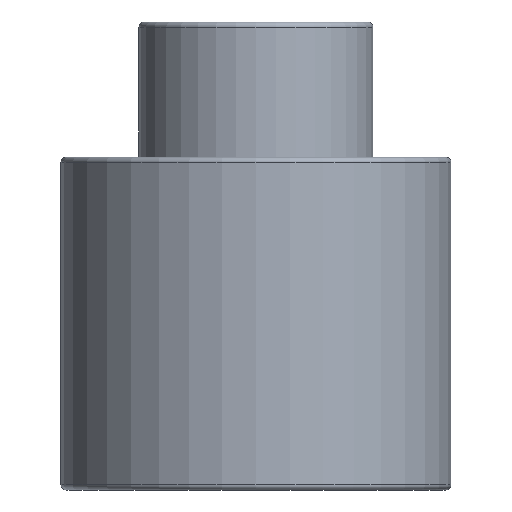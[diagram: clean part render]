
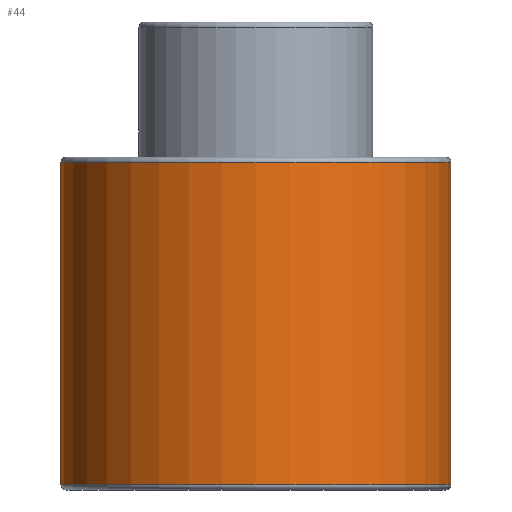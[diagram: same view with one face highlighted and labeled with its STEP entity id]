
A CAD part, front view. The second image highlights one B-rep face of the part: STEP entity #44.
In plain terms, the highlighted cylindrical face has radius 37.5 mm (diameter 75 mm), a full revolution.
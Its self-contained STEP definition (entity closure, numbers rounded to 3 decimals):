
#44=ADVANCED_FACE('',(#60,#61),#56,.T.);
#56=CYLINDRICAL_SURFACE('',#166,37.5);
#60=FACE_BOUND('',#84,.T.);
#61=FACE_BOUND('',#85,.T.);
#84=EDGE_LOOP('',(#106));
#85=EDGE_LOOP('',(#107));
#106=ORIENTED_EDGE('',*,*,#141,.F.);
#107=ORIENTED_EDGE('',*,*,#142,.T.);
#128=VERTEX_POINT('',#237);
#129=VERTEX_POINT('',#239);
#141=EDGE_CURVE('',#128,#128,#152,.T.);
#142=EDGE_CURVE('',#129,#129,#153,.T.);
#152=CIRCLE('',#164,37.5);
#153=CIRCLE('',#165,37.5);
#164=AXIS2_PLACEMENT_3D('',#236,#189,#190);
#165=AXIS2_PLACEMENT_3D('',#238,#191,#192);
#166=AXIS2_PLACEMENT_3D('',#240,#193,#194);
#189=DIRECTION('',(0.,0.,-1.));
#190=DIRECTION('',(-1.,0.,0.));
#191=DIRECTION('',(0.,0.,-1.));
#192=DIRECTION('',(-1.,0.,0.));
#193=DIRECTION('',(0.,0.,-1.));
#194=DIRECTION('',(-1.,0.,0.));
#236=CARTESIAN_POINT('',(0.,0.,1.));
#237=CARTESIAN_POINT('',(-37.5,0.,1.));
#238=CARTESIAN_POINT('',(0.,0.,63.));
#239=CARTESIAN_POINT('',(-37.5,0.,63.));
#240=CARTESIAN_POINT('',(0.,0.,0.));
